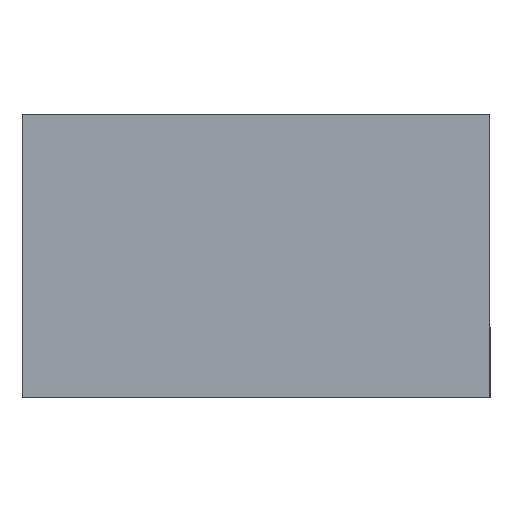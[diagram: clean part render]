
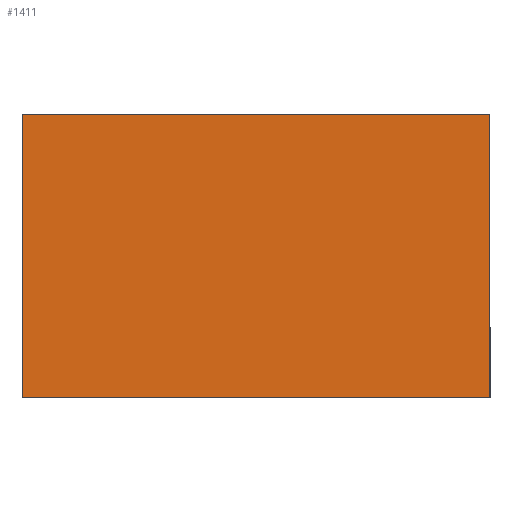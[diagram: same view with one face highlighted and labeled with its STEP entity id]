
A CAD part, left-side view. The second image highlights one B-rep face of the part: STEP entity #1411.
In plain terms, the highlighted planar face has unit normal (-1, 0, 0).
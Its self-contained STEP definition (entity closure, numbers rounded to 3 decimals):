
#161=LINE('',#2504,#265);
#181=LINE('',#2562,#285);
#182=LINE('',#2564,#286);
#183=LINE('',#2565,#287);
#265=VECTOR('',#1894,1000.);
#285=VECTOR('',#1940,1000.);
#286=VECTOR('',#1941,1000.);
#287=VECTOR('',#1942,1000.);
#374=FACE_OUTER_BOUND('',#471,.T.);
#471=EDGE_LOOP('',(#1145,#1146,#1147,#1148));
#662=VERTEX_POINT('',#2501);
#663=VERTEX_POINT('',#2503);
#688=VERTEX_POINT('',#2561);
#689=VERTEX_POINT('',#2563);
#824=EDGE_CURVE('',#662,#663,#161,.T.);
#853=EDGE_CURVE('',#688,#663,#181,.T.);
#854=EDGE_CURVE('',#689,#662,#182,.T.);
#855=EDGE_CURVE('',#689,#688,#183,.T.);
#1145=ORIENTED_EDGE('',*,*,#853,.T.);
#1146=ORIENTED_EDGE('',*,*,#824,.F.);
#1147=ORIENTED_EDGE('',*,*,#854,.F.);
#1148=ORIENTED_EDGE('',*,*,#855,.T.);
#1347=PLANE('',#1598);
#1411=ADVANCED_FACE('',(#374),#1347,.F.);
#1598=AXIS2_PLACEMENT_3D('',#2560,#1938,#1939);
#1894=DIRECTION('',(0.,-1.,0.));
#1938=DIRECTION('center_axis',(1.,0.,0.));
#1939=DIRECTION('ref_axis',(0.,0.,-1.));
#1940=DIRECTION('',(0.,0.,1.));
#1941=DIRECTION('',(0.,0.,1.));
#1942=DIRECTION('',(0.,-1.,0.));
#2501=CARTESIAN_POINT('',(-70.,30.,9.1));
#2503=CARTESIAN_POINT('',(-70.,0.,9.1));
#2504=CARTESIAN_POINT('',(-70.,30.,9.1));
#2560=CARTESIAN_POINT('Origin',(-70.,30.,-9.1));
#2561=CARTESIAN_POINT('',(-70.,0.,-9.1));
#2562=CARTESIAN_POINT('',(-70.,0.,-9.1));
#2563=CARTESIAN_POINT('',(-70.,30.,-9.1));
#2564=CARTESIAN_POINT('',(-70.,30.,-9.1));
#2565=CARTESIAN_POINT('',(-70.,30.,-9.1));
